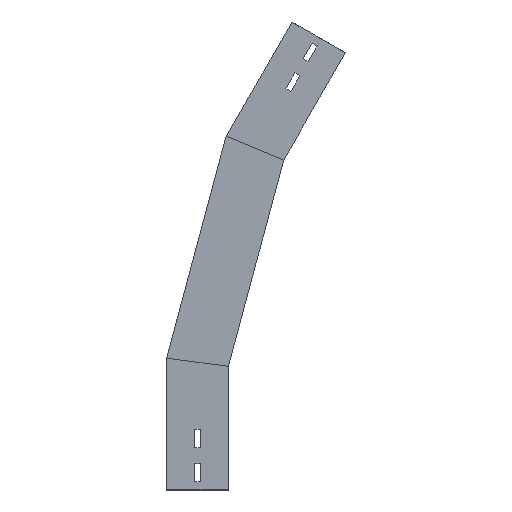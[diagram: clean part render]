
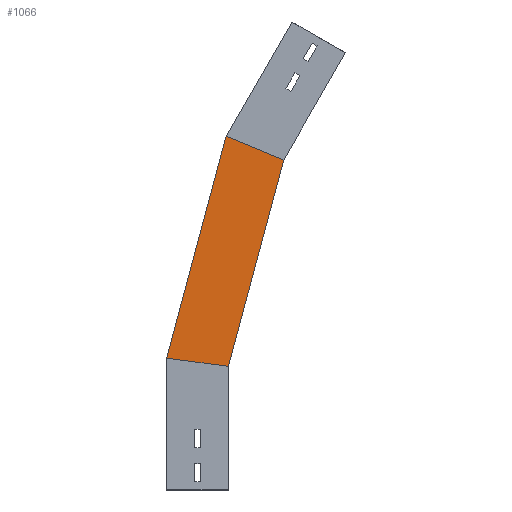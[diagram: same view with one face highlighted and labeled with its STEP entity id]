
A CAD part, left-side view. The second image highlights one B-rep face of the part: STEP entity #1066.
In plain terms, the highlighted planar face has unit normal (-1, 0, 0) as drawn and (1, 0, 0) by its records, which use the part's own axes.
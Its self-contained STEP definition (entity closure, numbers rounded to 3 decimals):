
#13 = VECTOR ( 'NONE', #1223, 1000. ) ;
#42 = CARTESIAN_POINT ( 'NONE',  ( 0., 2.855, 429.124 ) ) ;
#117 = CARTESIAN_POINT ( 'NONE',  ( 0., 2.837, 139.412 ) ) ;
#132 = FACE_OUTER_BOUND ( 'NONE', #575, .T. ) ;
#151 = CARTESIAN_POINT ( 'NONE',  ( 0., 0., 150. ) ) ;
#312 = VERTEX_POINT ( 'NONE', #902 ) ;
#314 = CARTESIAN_POINT ( 'NONE',  ( 0., -99.589, 386.69 ) ) ;
#352 = LINE ( 'NONE', #1149, #725 ) ;
#509 = VERTEX_POINT ( 'NONE', #770 ) ;
#555 = DIRECTION ( 'NONE',  ( 0., -0.924, -0.383 ) ) ;
#575 = EDGE_LOOP ( 'NONE', ( #655, #901, #1037, #1488 ) ) ;
#580 = DIRECTION ( 'NONE',  ( 1., 0., 0. ) ) ;
#619 = CARTESIAN_POINT ( 'NONE',  ( 0., 2.837, 139.412 ) ) ;
#655 = ORIENTED_EDGE ( 'NONE', *, *, #1288, .T. ) ;
#725 = VECTOR ( 'NONE', #1271, 1000. ) ;
#749 = VERTEX_POINT ( 'NONE', #42 ) ;
#767 = VERTEX_POINT ( 'NONE', #151 ) ;
#770 = CARTESIAN_POINT ( 'NONE',  ( 0., 75., 159.874 ) ) ;
#886 = VECTOR ( 'NONE', #555, 1000. ) ;
#888 = CARTESIAN_POINT ( 'NONE',  ( 0., 75.281, 158.824 ) ) ;
#901 = ORIENTED_EDGE ( 'NONE', *, *, #935, .T. ) ;
#902 = CARTESIAN_POINT ( 'NONE',  ( 0., -67.034, 400.175 ) ) ;
#921 = DIRECTION ( 'NONE',  ( 0., 0., -1. ) ) ;
#935 = EDGE_CURVE ( 'NONE', #749, #312, #1337, .T. ) ;
#987 = LINE ( 'NONE', #888, #13 ) ;
#1037 = ORIENTED_EDGE ( 'NONE', *, *, #1176, .F. ) ;
#1055 = EDGE_CURVE ( 'NONE', #509, #767, #352, .T. ) ;
#1066 = ADVANCED_FACE ( 'NONE', ( #132 ), #1164, .T. ) ;
#1111 = AXIS2_PLACEMENT_3D ( 'NONE', #117, #580, #921 ) ;
#1149 = CARTESIAN_POINT ( 'NONE',  ( 0., -19.411, 147.444 ) ) ;
#1164 = PLANE ( 'NONE',  #1111 ) ;
#1171 = DIRECTION ( 'NONE',  ( 0., -0.259, 0.966 ) ) ;
#1176 = EDGE_CURVE ( 'NONE', #767, #312, #1399, .T. ) ;
#1223 = DIRECTION ( 'NONE',  ( 0., -0.259, 0.966 ) ) ;
#1271 = DIRECTION ( 'NONE',  ( 0., -0.991, -0.131 ) ) ;
#1288 = EDGE_CURVE ( 'NONE', #509, #749, #987, .T. ) ;
#1337 = LINE ( 'NONE', #314, #886 ) ;
#1399 = LINE ( 'NONE', #619, #1444 ) ;
#1444 = VECTOR ( 'NONE', #1171, 1000. ) ;
#1488 = ORIENTED_EDGE ( 'NONE', *, *, #1055, .F. ) ;
